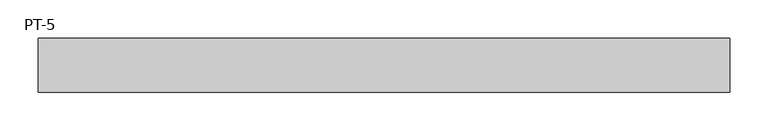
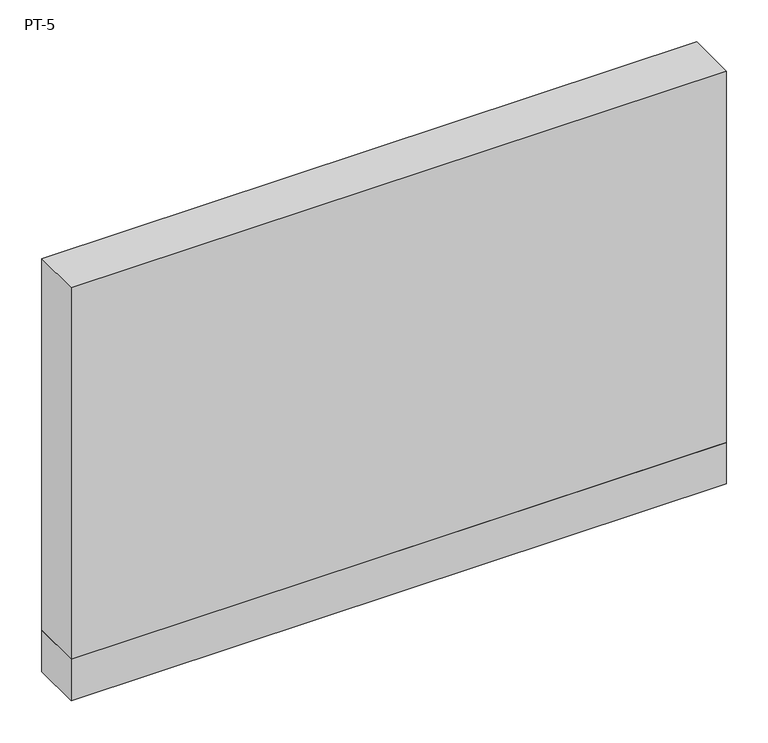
"""IFC4 building model written with IfcOpenShell, lengths in millimetres: plate geometry, 営_パーティションパネル_下部 : PT-5."""

from ifc_helpers import new_model, si_unit, frame, origin, origin_with_axes, place, context, project, spatial, polyline, outline, extrude, source, transform, mapped, element, save


def pt_5_5902302a(model_context):
    return source(origin(), model_context, "Body", "SweptSolid", [
        extrude(outline(polyline([(-450.0, -35.0), (-450.0, 35.0), (450.0, 35.0), (450.0, -35.0), (-450.0, -35.0)])), origin_with_axes(), (0.0, 0.0, 1.0), 60.0),
        extrude(outline(polyline([(-450.0, -35.0), (-450.0, 35.0), (450.0, 35.0), (450.0, -35.0), (-450.0, -35.0)])), frame((0.0, 0.0, 60.0), z_axis=(0.0, 0.0, 1.0), x_axis=(1.0, 0.0, 0.0)), (0.0, 0.0, 1.0), 540.0),
    ])


if __name__ == "__main__":
    model = new_model("IFC4")
    model_context = context("Model", 3, world=origin())
    ifc_project = project(units=[si_unit("LENGTHUNIT", "METRE", prefix="MILLI")], contexts=[model_context])
    site = spatial("IfcSite", under=ifc_project)
    building = spatial("IfcBuilding", under=site)
    placement = place(None, origin())
    pt_5_shape = pt_5_5902302a(model_context)
    element("IfcPlate", 1, ObjectType="営_パーティションパネル_下部 : PT-5", at=placement, inside=building, context=model_context, shape_type="MappedRepresentation", body=[
        mapped(pt_5_shape, transform((0.0, 0.0, 0.0), x_axis=(1.0, 0.0, 0.0), y_axis=(0.0, 1.0, 0.0), z_axis=(0.0, 0.0, 1.0))),
    ])
    save(model, "model.ifc")
